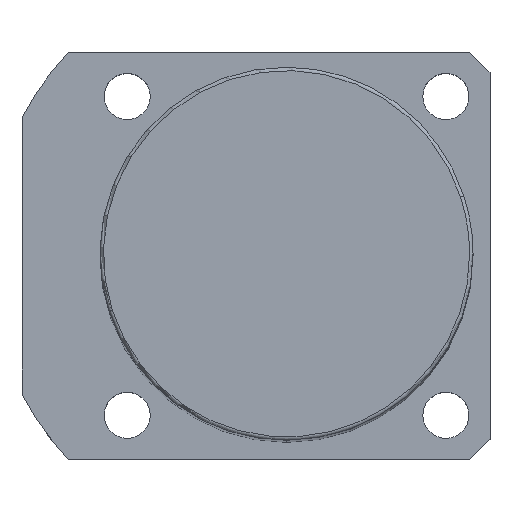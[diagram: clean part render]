
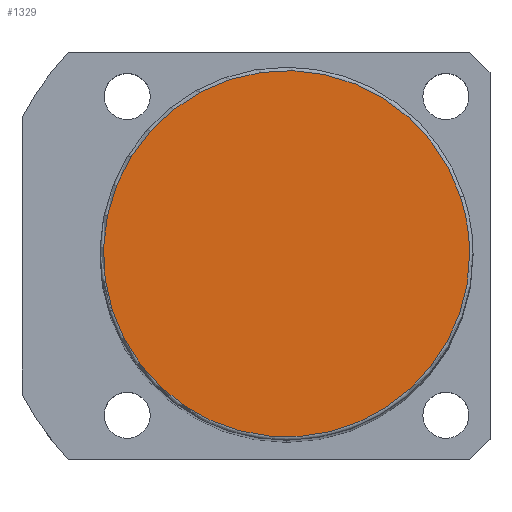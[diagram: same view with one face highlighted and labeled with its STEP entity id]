
A CAD part, top view. The second image highlights one B-rep face of the part: STEP entity #1329.
In plain terms, the highlighted planar face has unit normal (0, 0, 1).
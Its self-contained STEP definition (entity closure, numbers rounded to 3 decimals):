
#1295=CARTESIAN_POINT('',(27.0,0.0,191.0));
#1296=VERTEX_POINT('',#1295);
#1297=CARTESIAN_POINT('',(25.679,8.343,191.0));
#1298=VERTEX_POINT('',#1297);
#1299=CARTESIAN_POINT('',(0.0,0.0,191.0));
#1300=DIRECTION('',(0.0,0.0,1.0));
#1301=DIRECTION('',(1.0,0.0,0.0));
#1302=AXIS2_PLACEMENT_3D('',#1299,#1300,#1301);
#1303=CIRCLE('',#1302,27.0);
#1304=EDGE_CURVE('no 1835',#1296,#1298,#1303,.T.);
#1305=ORIENTED_EDGE('',*,*,#1304,.T.);
#1306=CARTESIAN_POINT('',(-25.679,-8.343,191.0));
#1307=VERTEX_POINT('',#1306);
#1308=CARTESIAN_POINT('',(0.0,0.0,191.0));
#1309=DIRECTION('',(0.0,0.0,1.0));
#1310=DIRECTION('',(1.0,0.0,0.0));
#1311=AXIS2_PLACEMENT_3D('',#1308,#1309,#1310);
#1312=CIRCLE('',#1311,27.0);
#1313=EDGE_CURVE('no 1841',#1298,#1307,#1312,.T.);
#1314=ORIENTED_EDGE('',*,*,#1313,.T.);
#1315=CARTESIAN_POINT('',(0.0,0.0,191.0));
#1316=DIRECTION('',(0.0,0.0,1.0));
#1317=DIRECTION('',(1.0,0.0,0.0));
#1318=AXIS2_PLACEMENT_3D('',#1315,#1316,#1317);
#1319=CIRCLE('',#1318,27.0);
#1320=EDGE_CURVE('no 1845',#1307,#1296,#1319,.T.);
#1321=ORIENTED_EDGE('',*,*,#1320,.T.);
#1322=EDGE_LOOP('',(#1305,#1314,#1321));
#1323=FACE_OUTER_BOUND('',#1322,.T.);
#1324=CARTESIAN_POINT('',(0.0,0.0,191.0));
#1325=DIRECTION('',(0.0,0.0,1.0));
#1326=DIRECTION('',(1.0,0.0,0.0));
#1327=AXIS2_PLACEMENT_3D('',#1324,#1325,#1326);
#1328=PLANE('',#1327);
#1329=ADVANCED_FACE('no 1826',(#1323),#1328,.T.);
